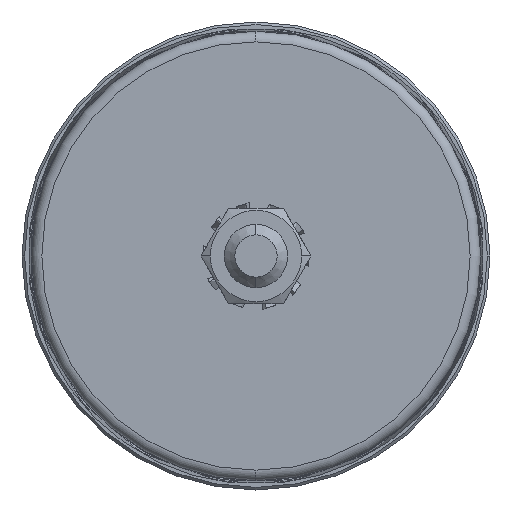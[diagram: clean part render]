
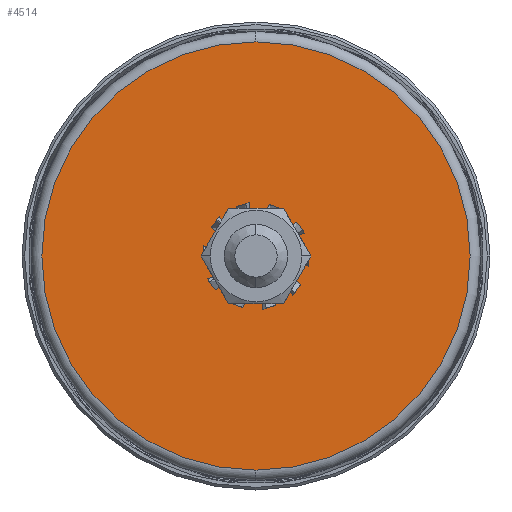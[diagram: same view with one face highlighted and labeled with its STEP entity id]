
A CAD part, front view. The second image highlights one B-rep face of the part: STEP entity #4514.
In plain terms, the highlighted planar face has unit normal (0, -1, 0).
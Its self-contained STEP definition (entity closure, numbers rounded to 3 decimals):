
#621 = DIRECTION ( 'NONE',  ( 0., 0., -1. ) ) ;
#682 = CARTESIAN_POINT ( 'NONE',  ( 0., 0., -8. ) ) ;
#736 = DIRECTION ( 'NONE',  ( 0., 0., -1. ) ) ;
#835 = VERTEX_POINT ( 'NONE', #8149 ) ;
#933 = EDGE_CURVE ( 'NONE', #835, #4807, #9372, .T. ) ;
#1611 = EDGE_LOOP ( 'NONE', ( #3135, #11903 ) ) ;
#2110 = DIRECTION ( 'NONE',  ( 0., 1., 0. ) ) ;
#2430 = AXIS2_PLACEMENT_3D ( 'NONE', #9563, #13343, #3556 ) ;
#3135 = ORIENTED_EDGE ( 'NONE', *, *, #4160, .T. ) ;
#3556 = DIRECTION ( 'NONE',  ( 0., 0., -1. ) ) ;
#3609 = DIRECTION ( 'NONE',  ( 0., -1., 0. ) ) ;
#4160 = EDGE_CURVE ( 'NONE', #15761, #9269, #10292, .T. ) ;
#4514 = ADVANCED_FACE ( 'NONE', ( #13179, #8921 ), #12078, .T. ) ;
#4807 = VERTEX_POINT ( 'NONE', #10298 ) ;
#5517 = CIRCLE ( 'NONE', #14815, 40.5 ) ;
#6591 = ORIENTED_EDGE ( 'NONE', *, *, #933, .T. ) ;
#6774 = DIRECTION ( 'NONE',  ( 0., -1., 0. ) ) ;
#7541 = EDGE_LOOP ( 'NONE', ( #12618, #6591 ) ) ;
#8124 = CARTESIAN_POINT ( 'NONE',  ( 0., 0., 0. ) ) ;
#8149 = CARTESIAN_POINT ( 'NONE',  ( 0., 0., 40.5 ) ) ;
#8151 = AXIS2_PLACEMENT_3D ( 'NONE', #12978, #2110, #13036 ) ;
#8191 = CARTESIAN_POINT ( 'NONE',  ( 0., 0., 0. ) ) ;
#8921 = FACE_OUTER_BOUND ( 'NONE', #7541, .T. ) ;
#9137 = AXIS2_PLACEMENT_3D ( 'NONE', #8191, #11860, #736 ) ;
#9269 = VERTEX_POINT ( 'NONE', #15060 ) ;
#9372 = CIRCLE ( 'NONE', #11312, 40.5 ) ;
#9563 = CARTESIAN_POINT ( 'NONE',  ( 6., 0., 0. ) ) ;
#10292 = CIRCLE ( 'NONE', #8151, 8. ) ;
#10298 = CARTESIAN_POINT ( 'NONE',  ( 0., 0., -40.5 ) ) ;
#10951 = CARTESIAN_POINT ( 'NONE',  ( 0., 0., 0. ) ) ;
#11312 = AXIS2_PLACEMENT_3D ( 'NONE', #10951, #3609, #12176 ) ;
#11508 = EDGE_CURVE ( 'NONE', #9269, #15761, #13125, .T. ) ;
#11860 = DIRECTION ( 'NONE',  ( 0., 1., 0. ) ) ;
#11903 = ORIENTED_EDGE ( 'NONE', *, *, #11508, .T. ) ;
#12078 = PLANE ( 'NONE',  #2430 ) ;
#12176 = DIRECTION ( 'NONE',  ( 0., 0., -1. ) ) ;
#12618 = ORIENTED_EDGE ( 'NONE', *, *, #14880, .T. ) ;
#12978 = CARTESIAN_POINT ( 'NONE',  ( 0., 0., 0. ) ) ;
#13036 = DIRECTION ( 'NONE',  ( 0., 0., -1. ) ) ;
#13125 = CIRCLE ( 'NONE', #9137, 8. ) ;
#13179 = FACE_BOUND ( 'NONE', #1611, .T. ) ;
#13343 = DIRECTION ( 'NONE',  ( 0., -1., 0. ) ) ;
#14815 = AXIS2_PLACEMENT_3D ( 'NONE', #8124, #6774, #621 ) ;
#14880 = EDGE_CURVE ( 'NONE', #4807, #835, #5517, .T. ) ;
#15060 = CARTESIAN_POINT ( 'NONE',  ( 0., 0., 8. ) ) ;
#15761 = VERTEX_POINT ( 'NONE', #682 ) ;
